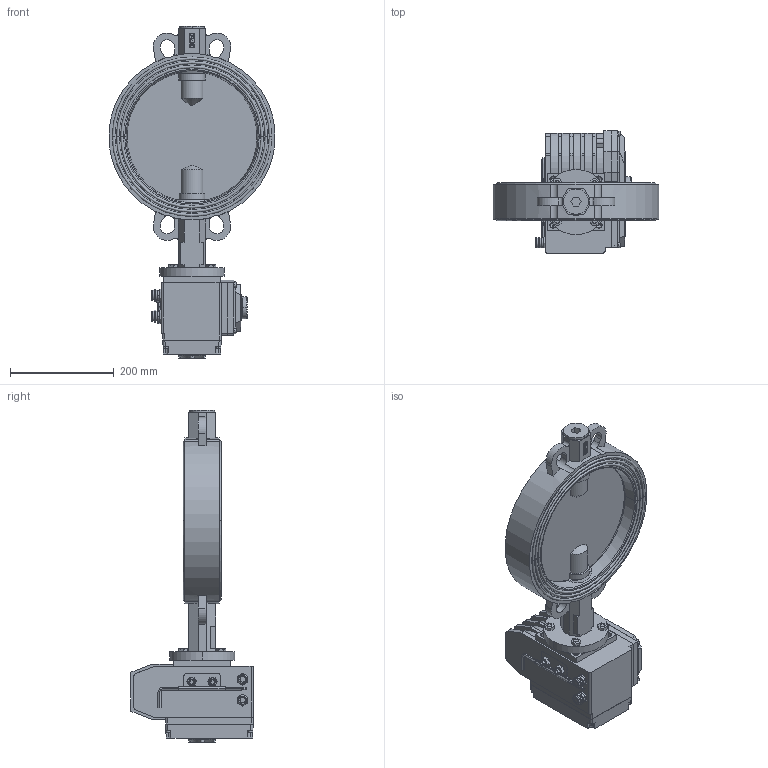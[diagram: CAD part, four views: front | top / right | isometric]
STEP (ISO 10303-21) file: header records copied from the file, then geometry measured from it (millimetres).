
FILE_DESCRIPTION((''),'2;1');
FILE_NAME('VBS_EAR_T_ASM','2025-02-22T',('AMD'),(''),'PRO/ENGINEER BY PARAMETRIC TECHNOLOGY CORPORATION, 2008020','PRO/ENGINEER BY PARAMETRIC TECHNOLOGY CORPORATION, 2008020','');
FILE_SCHEMA(('CONFIG_CONTROL_DESIGN'));
Length unit declared in the file: millimetre
Products named in the file (24): KORPUS; REZ; DISK; SHTIR_1; ZAGLUSHKA; O-RING; SHTIR_2; SHAIBA_RAZREZ; SHAIBA; KOLCO_40_GOST13943; VTULKA; MANZET_REZ; SB_ASM; B-7798-M10-30; DET_1; V-11738-M5; V-11738-M4; DET_2; KREPLENIE; KLUCH; DET_3; G-5915-M10; ELECTROPRIVOD_ASM; VBS_EAR_T_ASM
Assembly tree (45 placements, depth 3):
  VBS_EAR_T_ASM
    SB_ASM
      KORPUS
      REZ
      DISK
      SHTIR_1
      ZAGLUSHKA
      O-RING  x2
      SHTIR_2
      SHAIBA_RAZREZ
      SHAIBA  x2
      KOLCO_40_GOST13943
      VTULKA  x5
      MANZET_REZ
    B-7798-M10-30  x4
    ELECTROPRIVOD_ASM
      DET_1
      V-11738-M5  x10
      V-11738-M4  x4
      DET_2
      KREPLENIE
      KLUCH
      DET_3
      G-5915-M10  x2
Bounding box: 318.87 x 235 x 638.5 mm (x, y, z)
Volume: 7530919.3 mm3; surface area: 1052349.6 mm2
Topology: 43 solids, 82 shells, 1715 faces, 4419 edges, 2899 vertices
Faces by surface type: plane 1120, cylinder 459, cone 98, torus 38
Entity records: 44529 total; most frequent: CARTESIAN_POINT 8242, DIRECTION 7576, ORIENTED_EDGE 7286, EDGE_CURVE 3691, VECTOR 2690, LINE 2690, AXIS2_PLACEMENT_3D 2443, VERTEX_POINT 2437
